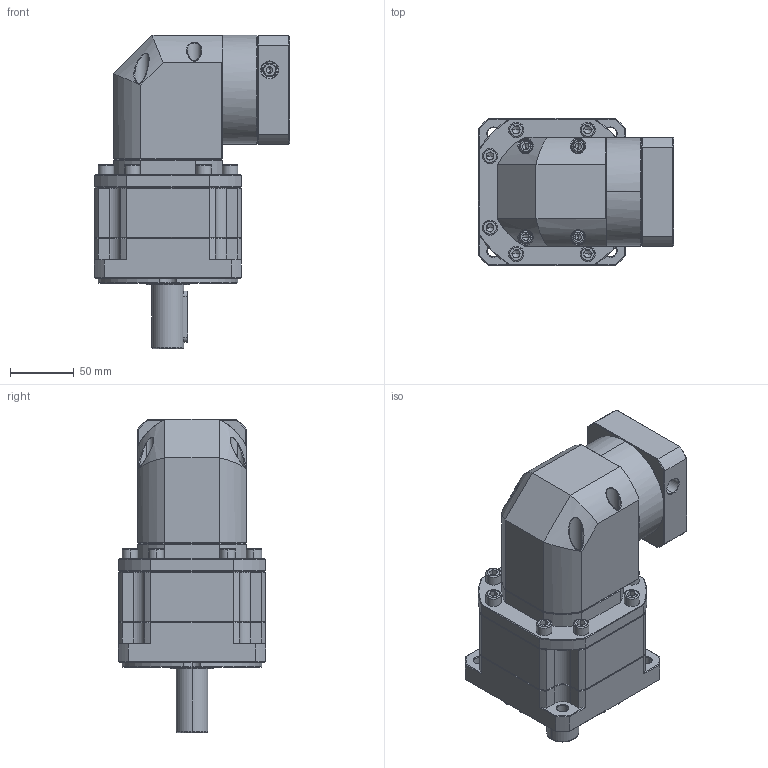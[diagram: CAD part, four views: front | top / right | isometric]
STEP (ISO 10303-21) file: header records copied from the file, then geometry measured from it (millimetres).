
FILE_DESCRIPTION (( 'STEP AP214' ), '1' );
FILE_NAME ('ZBR115A-D25-L2-P2-19-70-90-M6.step', '2023-08-26T13:32:46', ( '' ), ( '' ), 'SwSTEP 2.0', 'SolidWorks 2016', '' );
FILE_SCHEMA (( 'AUTOMOTIVE_DESIGN' ));
Length unit declared in the file: millimetre
Products named in the file (1): ZBR115A-D25-L2-P2-19-70-90-M6
Bounding box: 152.6 x 115 x 245 mm (x, y, z)
Volume: 1939314.1 mm3; surface area: 176526.4 mm2
Topology: 6 solids, 6 shells, 2594 faces, 6708 edges, 4223 vertices
Faces by surface type: plane 1281, cylinder 476, bspline 451, cone 372, torus 14
Entity records: 137063 total; most frequent: CARTESIAN_POINT 49148, ORIENTED_EDGE 13308, DIRECTION 10676, EDGE_CURVE 6654, LINE 4280, VECTOR 4280, VERTEX_POINT 4223, AXIS2_PLACEMENT_3D 3198
